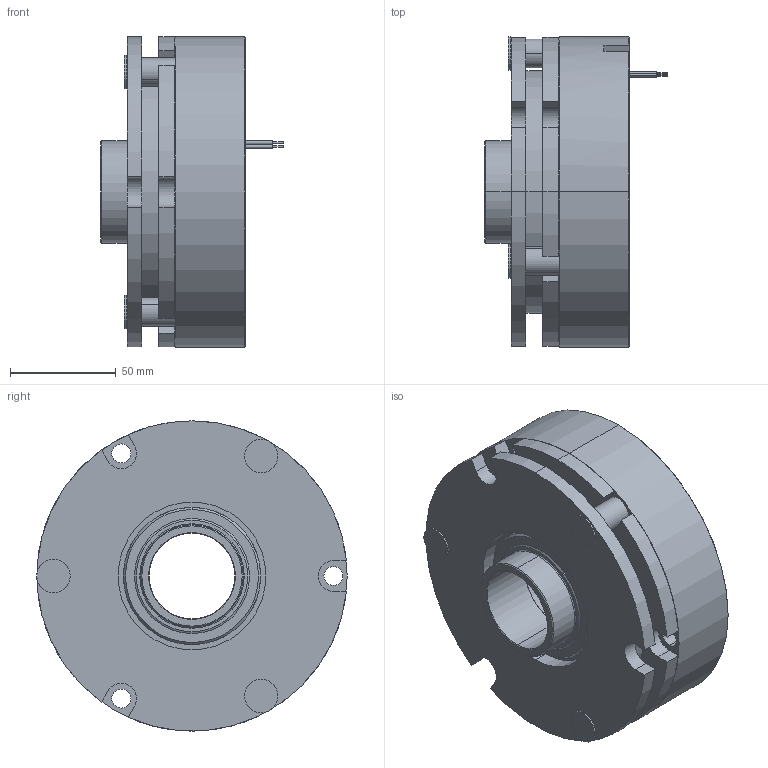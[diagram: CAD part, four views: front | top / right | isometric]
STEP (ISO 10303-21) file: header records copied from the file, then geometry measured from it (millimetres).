
FILE_DESCRIPTION (( 'STEP AP203' ), '1' );
FILE_NAME ('KS_10014A00_Customer_3D_model_19.12.17.STEP', '2018-01-16T10:58:07', ( '' ), ( '' ), 'SwSTEP 2.0', 'SolidWorks 2015', '' );
FILE_SCHEMA (( 'CONFIG_CONTROL_DESIGN' ));
Length unit declared in the file: millimetre
Products named in the file (1): KS_10014A00_Customer_3D_model_19.12.17
Bounding box: 86.5 x 147 x 147 mm (x, y, z)
Volume: 792620.2 mm3; surface area: 117394.3 mm2
Topology: 1 solids, 1 shells, 143 faces, 341 edges, 220 vertices
Faces by surface type: cylinder 77, plane 43, cone 19, torus 4
Entity records: 4309 total; most frequent: DIRECTION 810, CARTESIAN_POINT 711, ORIENTED_EDGE 682, EDGE_CURVE 341, AXIS2_PLACEMENT_3D 327, VERTEX_POINT 220, CIRCLE 183, EDGE_LOOP 177
